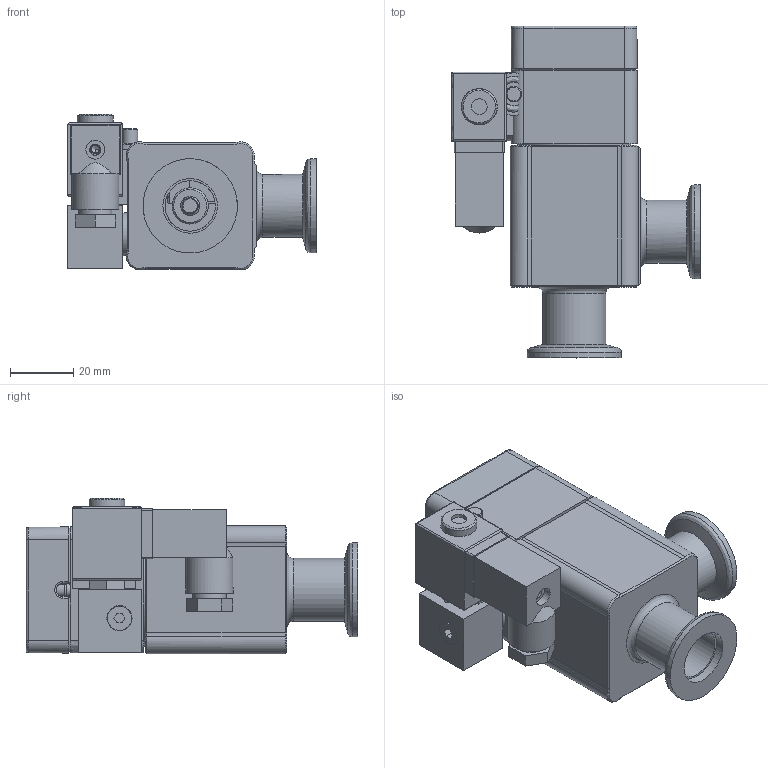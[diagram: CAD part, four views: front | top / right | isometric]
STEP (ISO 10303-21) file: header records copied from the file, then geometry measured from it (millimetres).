
FILE_DESCRIPTION((''),'2;1');
FILE_NAME('C:\TEMP\IDEAS\243603.stp','2006-09-19T15:22:12',('User'),( 'SDRC'),'I-DEAS Master Series','UNIX','Yes');
FILE_SCHEMA(('CONFIG_CONTROL_DESIGN'));
Length unit declared in the file: millimetre
Assembly tree (11 placements, depth 0):
Bounding box: 78.85 x 105.2 x 49.4 mm (x, y, z)
Volume: 67012.6 mm3; surface area: 59386.4 mm2
Topology: 6 solids, 14 shells, 670 faces, 1579 edges, 1006 vertices
Faces by surface type: bspline 670
Entity records: 22426 total; most frequent: CARTESIAN_POINT 11780, ORIENTED_EDGE 3045, EDGE_CURVE 1524, VERTEX_POINT 976, EDGE_LOOP 768, FACE_OUTER_BOUND 652, ADVANCED_FACE 652, QUASI_UNIFORM_CURVE 612
